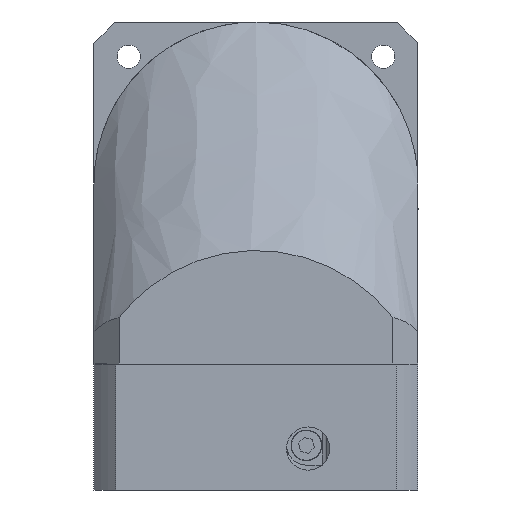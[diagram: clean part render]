
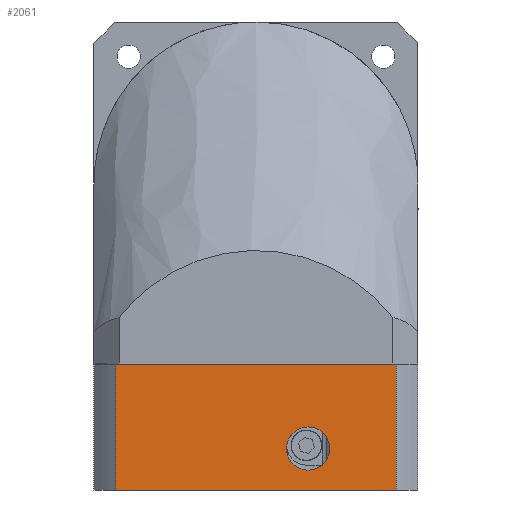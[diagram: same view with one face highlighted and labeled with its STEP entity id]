
A CAD part, front view. The second image highlights one B-rep face of the part: STEP entity #2061.
In plain terms, the highlighted planar face has unit normal (0, -1, 0) as drawn and (0, 0, 1) by its records, which use the part's own axes.
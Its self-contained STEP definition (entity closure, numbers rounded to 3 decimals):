
#840 = CARTESIAN_POINT ( 'NONE',  ( 0., 38.926, 45. ) ) ;
#1587 = CARTESIAN_POINT ( 'NONE',  ( 0., -38.926, 45. ) ) ;
#1761 = DIRECTION ( 'NONE',  ( 0., 1., 0. ) ) ;
#2061 = ADVANCED_FACE ( 'NONE', ( #40606, #27968 ), #21518, .T. ) ;
#2099 = EDGE_CURVE ( 'NONE', #19603, #39793, #26752, .T. ) ;
#2102 = ORIENTED_EDGE ( 'NONE', *, *, #42606, .T. ) ;
#2114 = LINE ( 'NONE', #25206, #22949 ) ;
#2492 = EDGE_LOOP ( 'NONE', ( #2102, #20211 ) ) ;
#2924 = AXIS2_PLACEMENT_3D ( 'NONE', #21339, #21638, #21642 ) ;
#3035 = CARTESIAN_POINT ( 'NONE',  ( 5.5, -14.5, 45. ) ) ;
#3268 = AXIS2_PLACEMENT_3D ( 'NONE', #5724, #32964, #9646 ) ;
#5724 = CARTESIAN_POINT ( 'NONE',  ( 11.5, -14.5, 45. ) ) ;
#8560 = CARTESIAN_POINT ( 'NONE',  ( 17.5, -14.5, 45. ) ) ;
#8670 = DIRECTION ( 'NONE',  ( 0., -1., 0. ) ) ;
#9378 = CARTESIAN_POINT ( 'NONE',  ( 35., 38.926, 45. ) ) ;
#9400 = ORIENTED_EDGE ( 'NONE', *, *, #2099, .T. ) ;
#9646 = DIRECTION ( 'NONE',  ( 1., 0., 0. ) ) ;
#10975 = LINE ( 'NONE', #840, #40675 ) ;
#16433 = VECTOR ( 'NONE', #23371, 1000. ) ;
#16674 = CARTESIAN_POINT ( 'NONE',  ( 0., 38.926, 45. ) ) ;
#17994 = ORIENTED_EDGE ( 'NONE', *, *, #39993, .F. ) ;
#19603 = VERTEX_POINT ( 'NONE', #1587 ) ;
#19697 = VERTEX_POINT ( 'NONE', #8560 ) ;
#20157 = LINE ( 'NONE', #28137, #49660 ) ;
#20211 = ORIENTED_EDGE ( 'NONE', *, *, #43079, .T. ) ;
#20361 = CARTESIAN_POINT ( 'NONE',  ( 11.5, -14.5, 45. ) ) ;
#20846 = EDGE_CURVE ( 'NONE', #39793, #38831, #2114, .T. ) ;
#21339 = CARTESIAN_POINT ( 'NONE',  ( 59., -45., 45. ) ) ;
#21518 = PLANE ( 'NONE',  #2924 ) ;
#21638 = DIRECTION ( 'NONE',  ( 0., 0., 1. ) ) ;
#21642 = DIRECTION ( 'NONE',  ( 1., 0., 0. ) ) ;
#22949 = VECTOR ( 'NONE', #1761, 1000. ) ;
#23371 = DIRECTION ( 'NONE',  ( 1., 0., 0. ) ) ;
#24273 = DIRECTION ( 'NONE',  ( 1., 0., 0. ) ) ;
#24314 = CARTESIAN_POINT ( 'NONE',  ( 59., -38.926, 45. ) ) ;
#25206 = CARTESIAN_POINT ( 'NONE',  ( 35., 59.5, 45. ) ) ;
#26752 = LINE ( 'NONE', #24314, #16433 ) ;
#27968 = FACE_BOUND ( 'NONE', #2492, .T. ) ;
#28137 = CARTESIAN_POINT ( 'NONE',  ( 0., -45., 45. ) ) ;
#28796 = AXIS2_PLACEMENT_3D ( 'NONE', #20361, #47298, #24273 ) ;
#32003 = DIRECTION ( 'NONE',  ( 1., 0., 0. ) ) ;
#32964 = DIRECTION ( 'NONE',  ( 0., 0., -1. ) ) ;
#33117 = CIRCLE ( 'NONE', #28796, 6. ) ;
#36784 = CARTESIAN_POINT ( 'NONE',  ( 35., -38.926, 45. ) ) ;
#38831 = VERTEX_POINT ( 'NONE', #9378 ) ;
#39114 = CIRCLE ( 'NONE', #3268, 6. ) ;
#39793 = VERTEX_POINT ( 'NONE', #36784 ) ;
#39993 = EDGE_CURVE ( 'NONE', #44849, #38831, #10975, .T. ) ;
#39995 = EDGE_CURVE ( 'NONE', #44849, #19603, #20157, .T. ) ;
#40606 = FACE_OUTER_BOUND ( 'NONE', #44468, .T. ) ;
#40675 = VECTOR ( 'NONE', #32003, 1000. ) ;
#41332 = ORIENTED_EDGE ( 'NONE', *, *, #39995, .T. ) ;
#42606 = EDGE_CURVE ( 'NONE', #19697, #45133, #33117, .T. ) ;
#43079 = EDGE_CURVE ( 'NONE', #45133, #19697, #39114, .T. ) ;
#44468 = EDGE_LOOP ( 'NONE', ( #9400, #49676, #17994, #41332 ) ) ;
#44849 = VERTEX_POINT ( 'NONE', #16674 ) ;
#45133 = VERTEX_POINT ( 'NONE', #3035 ) ;
#47298 = DIRECTION ( 'NONE',  ( 0., 0., -1. ) ) ;
#49660 = VECTOR ( 'NONE', #8670, 1000. ) ;
#49676 = ORIENTED_EDGE ( 'NONE', *, *, #20846, .T. ) ;
